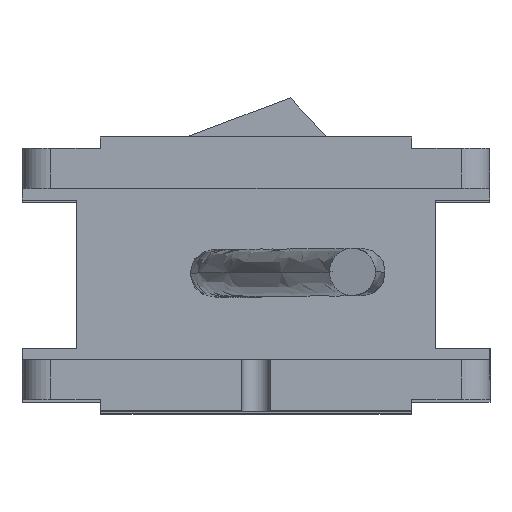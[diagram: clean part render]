
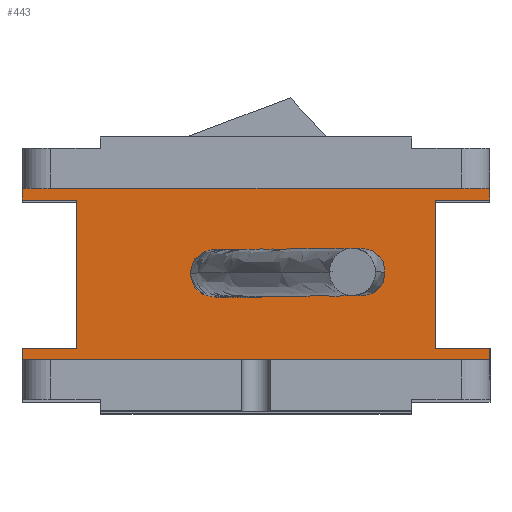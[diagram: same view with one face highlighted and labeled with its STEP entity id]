
A CAD part, top view. The second image highlights one B-rep face of the part: STEP entity #443.
In plain terms, the highlighted planar face has unit normal (0, 0, 1).
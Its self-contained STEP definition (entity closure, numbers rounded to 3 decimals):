
#14 = EDGE_CURVE ( 'NONE', #2867, #764, #3000, .T. ) ;
#48 = CIRCLE ( 'NONE', #1406, 4.15 ) ;
#86 = CARTESIAN_POINT ( 'NONE',  ( -4.15, 0., 129. ) ) ;
#95 = VERTEX_POINT ( 'NONE', #2449 ) ;
#99 = DIRECTION ( 'NONE',  ( -1., 0., 0. ) ) ;
#141 = DIRECTION ( 'NONE',  ( 0., 0., 1. ) ) ;
#166 = VERTEX_POINT ( 'NONE', #1662 ) ;
#288 = AXIS2_PLACEMENT_3D ( 'NONE', #1519, #2596, #2086 ) ;
#323 = LINE ( 'NONE', #1673, #576 ) ;
#340 = CARTESIAN_POINT ( 'NONE',  ( 41., 13., 129. ) ) ;
#357 = LINE ( 'NONE', #1542, #1618 ) ;
#365 = LINE ( 'NONE', #654, #1235 ) ;
#387 = ORIENTED_EDGE ( 'NONE', *, *, #2534, .F. ) ;
#390 = VERTEX_POINT ( 'NONE', #1075 ) ;
#421 = ORIENTED_EDGE ( 'NONE', *, *, #3511, .T. ) ;
#443 = ADVANCED_FACE ( 'NONE', ( #2847, #2830 ), #2293, .F. ) ;
#463 = LINE ( 'NONE', #1365, #3353 ) ;
#473 = ORIENTED_EDGE ( 'NONE', *, *, #1362, .F. ) ;
#519 = VECTOR ( 'NONE', #2682, 1000. ) ;
#576 = VECTOR ( 'NONE', #1688, 1000. ) ;
#654 = CARTESIAN_POINT ( 'NONE',  ( 41., 15., 129. ) ) ;
#731 = ORIENTED_EDGE ( 'NONE', *, *, #1648, .F. ) ;
#749 = CIRCLE ( 'NONE', #288, 4.15 ) ;
#764 = VERTEX_POINT ( 'NONE', #3413 ) ;
#866 = DIRECTION ( 'NONE',  ( 0., -1., 0. ) ) ;
#931 = VECTOR ( 'NONE', #2116, 1000. ) ;
#936 = LINE ( 'NONE', #2069, #519 ) ;
#949 = CARTESIAN_POINT ( 'NONE',  ( 41., -15., 129. ) ) ;
#965 = CARTESIAN_POINT ( 'NONE',  ( -31.5, -13., 129. ) ) ;
#981 = EDGE_CURVE ( 'NONE', #3357, #95, #936, .T. ) ;
#984 = LINE ( 'NONE', #3207, #931 ) ;
#1020 = CARTESIAN_POINT ( 'NONE',  ( -41., -13., 129. ) ) ;
#1029 = DIRECTION ( 'NONE',  ( 0., -1., 0. ) ) ;
#1036 = VERTEX_POINT ( 'NONE', #1773 ) ;
#1046 = VERTEX_POINT ( 'NONE', #2062 ) ;
#1051 = DIRECTION ( 'NONE',  ( -1., 0., 0. ) ) ;
#1062 = VERTEX_POINT ( 'NONE', #3189 ) ;
#1075 = CARTESIAN_POINT ( 'NONE',  ( 31.5, -13., 129. ) ) ;
#1118 = ORIENTED_EDGE ( 'NONE', *, *, #2653, .T. ) ;
#1157 = DIRECTION ( 'NONE',  ( 0., -1., 0. ) ) ;
#1212 = VERTEX_POINT ( 'NONE', #1020 ) ;
#1225 = ORIENTED_EDGE ( 'NONE', *, *, #981, .F. ) ;
#1235 = VECTOR ( 'NONE', #866, 1000. ) ;
#1362 = EDGE_CURVE ( 'NONE', #390, #2531, #323, .T. ) ;
#1365 = CARTESIAN_POINT ( 'NONE',  ( 31.5, -13., 129. ) ) ;
#1390 = VECTOR ( 'NONE', #3572, 1000. ) ;
#1406 = AXIS2_PLACEMENT_3D ( 'NONE', #2665, #141, #1578 ) ;
#1416 = DIRECTION ( 'NONE',  ( 0., -1., 0. ) ) ;
#1419 = CARTESIAN_POINT ( 'NONE',  ( -41., 13., 129. ) ) ;
#1441 = VECTOR ( 'NONE', #2624, 1000. ) ;
#1519 = CARTESIAN_POINT ( 'NONE',  ( 0., 0., 129. ) ) ;
#1542 = CARTESIAN_POINT ( 'NONE',  ( 41., 15., 129. ) ) ;
#1578 = DIRECTION ( 'NONE',  ( 1., 0., 0. ) ) ;
#1618 = VECTOR ( 'NONE', #1157, 1000. ) ;
#1620 = DIRECTION ( 'NONE',  ( 1., 0., 0. ) ) ;
#1647 = CARTESIAN_POINT ( 'NONE',  ( -41., 15., 129. ) ) ;
#1648 = EDGE_CURVE ( 'NONE', #2531, #3357, #357, .T. ) ;
#1662 = CARTESIAN_POINT ( 'NONE',  ( -41., 15., 129. ) ) ;
#1668 = EDGE_LOOP ( 'NONE', ( #2564, #3190, #1118, #1225, #731, #473, #3143, #2216, #387, #421, #2227, #3426 ) ) ;
#1673 = CARTESIAN_POINT ( 'NONE',  ( 41., -13., 129. ) ) ;
#1688 = DIRECTION ( 'NONE',  ( 1., 0., 0. ) ) ;
#1717 = CARTESIAN_POINT ( 'NONE',  ( 41., 15., 129. ) ) ;
#1773 = CARTESIAN_POINT ( 'NONE',  ( 4.15, 0., 129. ) ) ;
#1784 = LINE ( 'NONE', #2906, #1441 ) ;
#1827 = EDGE_CURVE ( 'NONE', #2713, #1046, #1784, .T. ) ;
#1853 = EDGE_CURVE ( 'NONE', #1212, #2713, #2429, .T. ) ;
#1943 = DIRECTION ( 'NONE',  ( -1., 0., 0. ) ) ;
#1956 = LINE ( 'NONE', #1647, #2468 ) ;
#2036 = CARTESIAN_POINT ( 'NONE',  ( 41., -13., 129. ) ) ;
#2062 = CARTESIAN_POINT ( 'NONE',  ( -31.5, 13., 129. ) ) ;
#2069 = CARTESIAN_POINT ( 'NONE',  ( 41., -15., 129. ) ) ;
#2086 = DIRECTION ( 'NONE',  ( 1., 0., 0. ) ) ;
#2116 = DIRECTION ( 'NONE',  ( 0., -1., 0. ) ) ;
#2146 = CARTESIAN_POINT ( 'NONE',  ( -31.5, -13., 129. ) ) ;
#2177 = VECTOR ( 'NONE', #1051, 1000. ) ;
#2197 = EDGE_CURVE ( 'NONE', #166, #3442, #1956, .T. ) ;
#2216 = ORIENTED_EDGE ( 'NONE', *, *, #14, .F. ) ;
#2227 = ORIENTED_EDGE ( 'NONE', *, *, #2197, .T. ) ;
#2293 = PLANE ( 'NONE',  #3040 ) ;
#2331 = VERTEX_POINT ( 'NONE', #86 ) ;
#2413 = ORIENTED_EDGE ( 'NONE', *, *, #3575, .F. ) ;
#2429 = LINE ( 'NONE', #2146, #2557 ) ;
#2449 = CARTESIAN_POINT ( 'NONE',  ( -41., -15., 129. ) ) ;
#2457 = LINE ( 'NONE', #3307, #2177 ) ;
#2468 = VECTOR ( 'NONE', #1416, 1000. ) ;
#2529 = VECTOR ( 'NONE', #1943, 1000. ) ;
#2531 = VERTEX_POINT ( 'NONE', #2036 ) ;
#2534 = EDGE_CURVE ( 'NONE', #1062, #2867, #365, .T. ) ;
#2555 = ORIENTED_EDGE ( 'NONE', *, *, #3062, .F. ) ;
#2557 = VECTOR ( 'NONE', #1620, 1000. ) ;
#2564 = ORIENTED_EDGE ( 'NONE', *, *, #1827, .F. ) ;
#2596 = DIRECTION ( 'NONE',  ( 0., 0., 1. ) ) ;
#2624 = DIRECTION ( 'NONE',  ( 0., 1., 0. ) ) ;
#2653 = EDGE_CURVE ( 'NONE', #1212, #95, #984, .T. ) ;
#2665 = CARTESIAN_POINT ( 'NONE',  ( 0., 0., 129. ) ) ;
#2682 = DIRECTION ( 'NONE',  ( -1., 0., 0. ) ) ;
#2713 = VERTEX_POINT ( 'NONE', #965 ) ;
#2820 = CARTESIAN_POINT ( 'NONE',  ( 41., 15., 129. ) ) ;
#2830 = FACE_OUTER_BOUND ( 'NONE', #1668, .T. ) ;
#2838 = LINE ( 'NONE', #2820, #2529 ) ;
#2847 = FACE_BOUND ( 'NONE', #2995, .T. ) ;
#2867 = VERTEX_POINT ( 'NONE', #340 ) ;
#2906 = CARTESIAN_POINT ( 'NONE',  ( -31.5, 13., 129. ) ) ;
#2995 = EDGE_LOOP ( 'NONE', ( #2555, #2413 ) ) ;
#3000 = LINE ( 'NONE', #3541, #1390 ) ;
#3040 = AXIS2_PLACEMENT_3D ( 'NONE', #1717, #3129, #99 ) ;
#3062 = EDGE_CURVE ( 'NONE', #1036, #2331, #48, .T. ) ;
#3129 = DIRECTION ( 'NONE',  ( 0., 0., -1. ) ) ;
#3143 = ORIENTED_EDGE ( 'NONE', *, *, #3170, .F. ) ;
#3151 = EDGE_CURVE ( 'NONE', #1046, #3442, #2457, .T. ) ;
#3170 = EDGE_CURVE ( 'NONE', #764, #390, #463, .T. ) ;
#3189 = CARTESIAN_POINT ( 'NONE',  ( 41., 15., 129. ) ) ;
#3190 = ORIENTED_EDGE ( 'NONE', *, *, #1853, .F. ) ;
#3207 = CARTESIAN_POINT ( 'NONE',  ( -41., 15., 129. ) ) ;
#3307 = CARTESIAN_POINT ( 'NONE',  ( -41., 13., 129. ) ) ;
#3353 = VECTOR ( 'NONE', #1029, 1000. ) ;
#3357 = VERTEX_POINT ( 'NONE', #949 ) ;
#3413 = CARTESIAN_POINT ( 'NONE',  ( 31.5, 13., 129. ) ) ;
#3426 = ORIENTED_EDGE ( 'NONE', *, *, #3151, .F. ) ;
#3442 = VERTEX_POINT ( 'NONE', #1419 ) ;
#3511 = EDGE_CURVE ( 'NONE', #1062, #166, #2838, .T. ) ;
#3541 = CARTESIAN_POINT ( 'NONE',  ( 31.5, 13., 129. ) ) ;
#3572 = DIRECTION ( 'NONE',  ( -1., 0., 0. ) ) ;
#3575 = EDGE_CURVE ( 'NONE', #2331, #1036, #749, .T. ) ;
